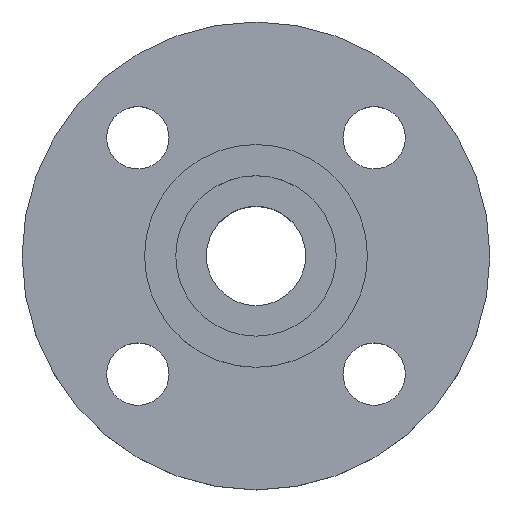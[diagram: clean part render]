
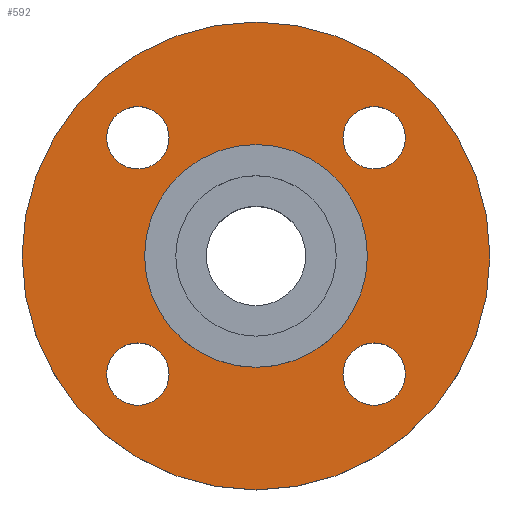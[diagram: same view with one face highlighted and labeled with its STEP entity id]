
A CAD part, top view. The second image highlights one B-rep face of the part: STEP entity #592.
In plain terms, the highlighted planar face has unit normal (0, 0, 1).
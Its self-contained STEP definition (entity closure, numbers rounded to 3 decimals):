
#9 = VERTEX_POINT ( 'NONE', #414 ) ;
#21 = CARTESIAN_POINT ( 'NONE',  ( 26.517, -26.517, -4.5 ) ) ;
#22 = AXIS2_PLACEMENT_3D ( 'NONE', #86, #83, #75 ) ;
#34 = ORIENTED_EDGE ( 'NONE', *, *, #426, .T. ) ;
#35 = ORIENTED_EDGE ( 'NONE', *, *, #379, .T. ) ;
#37 = ORIENTED_EDGE ( 'NONE', *, *, #341, .T. ) ;
#42 = ORIENTED_EDGE ( 'NONE', *, *, #737, .T. ) ;
#43 = ORIENTED_EDGE ( 'NONE', *, *, #547, .T. ) ;
#45 = ORIENTED_EDGE ( 'NONE', *, *, #465, .T. ) ;
#47 = CARTESIAN_POINT ( 'NONE',  ( -19.517, -26.517, -4.5 ) ) ;
#48 = DIRECTION ( 'NONE',  ( 0., 0., -1. ) ) ;
#54 = AXIS2_PLACEMENT_3D ( 'NONE', #135, #60, #63 ) ;
#55 = ORIENTED_EDGE ( 'NONE', *, *, #183, .T. ) ;
#56 = CIRCLE ( 'NONE', #22, 7. ) ;
#58 = ORIENTED_EDGE ( 'NONE', *, *, #657, .T. ) ;
#60 = DIRECTION ( 'NONE',  ( 0., 0., -1. ) ) ;
#61 = AXIS2_PLACEMENT_3D ( 'NONE', #752, #749, #747 ) ;
#63 = DIRECTION ( 'NONE',  ( 1., 0., 0. ) ) ;
#65 = ORIENTED_EDGE ( 'NONE', *, *, #420, .T. ) ;
#67 = ORIENTED_EDGE ( 'NONE', *, *, #216, .T. ) ;
#75 = DIRECTION ( 'NONE',  ( 1., 0., 0. ) ) ;
#78 = ORIENTED_EDGE ( 'NONE', *, *, #584, .F. ) ;
#82 = AXIS2_PLACEMENT_3D ( 'NONE', #736, #734, #733 ) ;
#83 = DIRECTION ( 'NONE',  ( 0., 0., -1. ) ) ;
#86 = CARTESIAN_POINT ( 'NONE',  ( 26.517, -26.517, -4.5 ) ) ;
#87 = ORIENTED_EDGE ( 'NONE', *, *, #519, .F. ) ;
#108 = AXIS2_PLACEMENT_3D ( 'NONE', #797, #789, #788 ) ;
#120 = AXIS2_PLACEMENT_3D ( 'NONE', #382, #523, #530 ) ;
#135 = CARTESIAN_POINT ( 'NONE',  ( -26.517, 26.517, -4.5 ) ) ;
#140 = CARTESIAN_POINT ( 'NONE',  ( 0., 0., -4.5 ) ) ;
#183 = EDGE_CURVE ( 'NONE', #330, #396, #387, .T. ) ;
#196 = CARTESIAN_POINT ( 'NONE',  ( 26.517, 26.517, -4.5 ) ) ;
#198 = DIRECTION ( 'NONE',  ( 0., 0., -1. ) ) ;
#199 = DIRECTION ( 'NONE',  ( 1., 0., 0. ) ) ;
#207 = VERTEX_POINT ( 'NONE', #241 ) ;
#216 = EDGE_CURVE ( 'NONE', #321, #660, #683, .T. ) ;
#217 = CIRCLE ( 'NONE', #61, 52.5 ) ;
#241 = CARTESIAN_POINT ( 'NONE',  ( 19.517, -26.517, -4.5 ) ) ;
#245 = VERTEX_POINT ( 'NONE', #273 ) ;
#257 = CARTESIAN_POINT ( 'NONE',  ( 0., 0., -4.5 ) ) ;
#258 = DIRECTION ( 'NONE',  ( 0., 0., -1. ) ) ;
#259 = DIRECTION ( 'NONE',  ( -1., 0., 0. ) ) ;
#263 = AXIS2_PLACEMENT_3D ( 'NONE', #648, #647, #644 ) ;
#273 = CARTESIAN_POINT ( 'NONE',  ( -52.5, 0., -4.5 ) ) ;
#288 = AXIS2_PLACEMENT_3D ( 'NONE', #710, #708, #702 ) ;
#309 = VERTEX_POINT ( 'NONE', #332 ) ;
#315 = EDGE_LOOP ( 'NONE', ( #43, #45 ) ) ;
#318 = VERTEX_POINT ( 'NONE', #362 ) ;
#321 = VERTEX_POINT ( 'NONE', #364 ) ;
#329 = EDGE_LOOP ( 'NONE', ( #65, #67 ) ) ;
#330 = VERTEX_POINT ( 'NONE', #372 ) ;
#332 = CARTESIAN_POINT ( 'NONE',  ( -19.517, 26.517, -4.5 ) ) ;
#333 = AXIS2_PLACEMENT_3D ( 'NONE', #140, #48, #874 ) ;
#334 = CIRCLE ( 'NONE', #108, 7. ) ;
#341 = EDGE_CURVE ( 'NONE', #346, #9, #804, .T. ) ;
#346 = VERTEX_POINT ( 'NONE', #47 ) ;
#354 = AXIS2_PLACEMENT_3D ( 'NONE', #257, #258, #259 ) ;
#356 = EDGE_LOOP ( 'NONE', ( #37, #42 ) ) ;
#357 = EDGE_LOOP ( 'NONE', ( #55, #58 ) ) ;
#362 = CARTESIAN_POINT ( 'NONE',  ( 52.5, 0., -4.5 ) ) ;
#363 = CIRCLE ( 'NONE', #263, 7. ) ;
#364 = CARTESIAN_POINT ( 'NONE',  ( 25., 0., -4.5 ) ) ;
#372 = CARTESIAN_POINT ( 'NONE',  ( 33.517, 26.517, -4.5 ) ) ;
#373 = CIRCLE ( 'NONE', #288, 7. ) ;
#379 = EDGE_CURVE ( 'NONE', #207, #589, #621, .T. ) ;
#382 = CARTESIAN_POINT ( 'NONE',  ( -26.517, -26.517, -4.5 ) ) ;
#387 = CIRCLE ( 'NONE', #895, 7. ) ;
#396 = VERTEX_POINT ( 'NONE', #862 ) ;
#410 = EDGE_LOOP ( 'NONE', ( #78, #87 ) ) ;
#413 = CIRCLE ( 'NONE', #641, 52.5 ) ;
#414 = CARTESIAN_POINT ( 'NONE',  ( -33.517, -26.517, -4.5 ) ) ;
#420 = EDGE_CURVE ( 'NONE', #660, #321, #724, .T. ) ;
#426 = EDGE_CURVE ( 'NONE', #589, #207, #56, .T. ) ;
#430 = CIRCLE ( 'NONE', #54, 7. ) ;
#447 = AXIS2_PLACEMENT_3D ( 'NONE', #21, #751, #877 ) ;
#465 = EDGE_CURVE ( 'NONE', #581, #309, #430, .T. ) ;
#488 = EDGE_LOOP ( 'NONE', ( #34, #35 ) ) ;
#519 = EDGE_CURVE ( 'NONE', #245, #318, #413, .T. ) ;
#523 = DIRECTION ( 'NONE',  ( 0., 0., -1. ) ) ;
#530 = DIRECTION ( 'NONE',  ( 1., 0., 0. ) ) ;
#547 = EDGE_CURVE ( 'NONE', #309, #581, #334, .T. ) ;
#581 = VERTEX_POINT ( 'NONE', #754 ) ;
#584 = EDGE_CURVE ( 'NONE', #318, #245, #217, .T. ) ;
#589 = VERTEX_POINT ( 'NONE', #746 ) ;
#592 = ADVANCED_FACE ( 'NONE', ( #745, #744, #742, #741, #740, #739 ), #738, .T. ) ;
#621 = CIRCLE ( 'NONE', #447, 7. ) ;
#641 = AXIS2_PLACEMENT_3D ( 'NONE', #812, #811, #810 ) ;
#644 = DIRECTION ( 'NONE',  ( 1., 0., 0. ) ) ;
#647 = DIRECTION ( 'NONE',  ( 0., 0., -1. ) ) ;
#648 = CARTESIAN_POINT ( 'NONE',  ( -26.517, -26.517, -4.5 ) ) ;
#657 = EDGE_CURVE ( 'NONE', #396, #330, #373, .T. ) ;
#660 = VERTEX_POINT ( 'NONE', #701 ) ;
#683 = CIRCLE ( 'NONE', #354, 25. ) ;
#701 = CARTESIAN_POINT ( 'NONE',  ( -25., 0., -4.5 ) ) ;
#702 = DIRECTION ( 'NONE',  ( 1., 0., 0. ) ) ;
#708 = DIRECTION ( 'NONE',  ( 0., 0., -1. ) ) ;
#710 = CARTESIAN_POINT ( 'NONE',  ( 26.517, 26.517, -4.5 ) ) ;
#724 = CIRCLE ( 'NONE', #333, 25. ) ;
#733 = DIRECTION ( 'NONE',  ( 1., 0., 0. ) ) ;
#734 = DIRECTION ( 'NONE',  ( 0., 0., 1. ) ) ;
#736 = CARTESIAN_POINT ( 'NONE',  ( 25., 0., -4.5 ) ) ;
#737 = EDGE_CURVE ( 'NONE', #9, #346, #363, .T. ) ;
#738 = PLANE ( 'NONE',  #82 ) ;
#739 = FACE_OUTER_BOUND ( 'NONE', #410, .T. ) ;
#740 = FACE_BOUND ( 'NONE', #329, .T. ) ;
#741 = FACE_BOUND ( 'NONE', #357, .T. ) ;
#742 = FACE_BOUND ( 'NONE', #315, .T. ) ;
#744 = FACE_BOUND ( 'NONE', #356, .T. ) ;
#745 = FACE_BOUND ( 'NONE', #488, .T. ) ;
#746 = CARTESIAN_POINT ( 'NONE',  ( 33.517, -26.517, -4.5 ) ) ;
#747 = DIRECTION ( 'NONE',  ( -1., 0., 0. ) ) ;
#749 = DIRECTION ( 'NONE',  ( 0., 0., -1. ) ) ;
#751 = DIRECTION ( 'NONE',  ( 0., 0., -1. ) ) ;
#752 = CARTESIAN_POINT ( 'NONE',  ( 0., 0., -4.5 ) ) ;
#754 = CARTESIAN_POINT ( 'NONE',  ( -33.517, 26.517, -4.5 ) ) ;
#788 = DIRECTION ( 'NONE',  ( 1., 0., 0. ) ) ;
#789 = DIRECTION ( 'NONE',  ( 0., 0., -1. ) ) ;
#797 = CARTESIAN_POINT ( 'NONE',  ( -26.517, 26.517, -4.5 ) ) ;
#804 = CIRCLE ( 'NONE', #120, 7. ) ;
#810 = DIRECTION ( 'NONE',  ( -1., 0., 0. ) ) ;
#811 = DIRECTION ( 'NONE',  ( 0., 0., -1. ) ) ;
#812 = CARTESIAN_POINT ( 'NONE',  ( 0., 0., -4.5 ) ) ;
#862 = CARTESIAN_POINT ( 'NONE',  ( 19.517, 26.517, -4.5 ) ) ;
#874 = DIRECTION ( 'NONE',  ( -1., 0., 0. ) ) ;
#877 = DIRECTION ( 'NONE',  ( 1., 0., 0. ) ) ;
#895 = AXIS2_PLACEMENT_3D ( 'NONE', #196, #198, #199 ) ;
